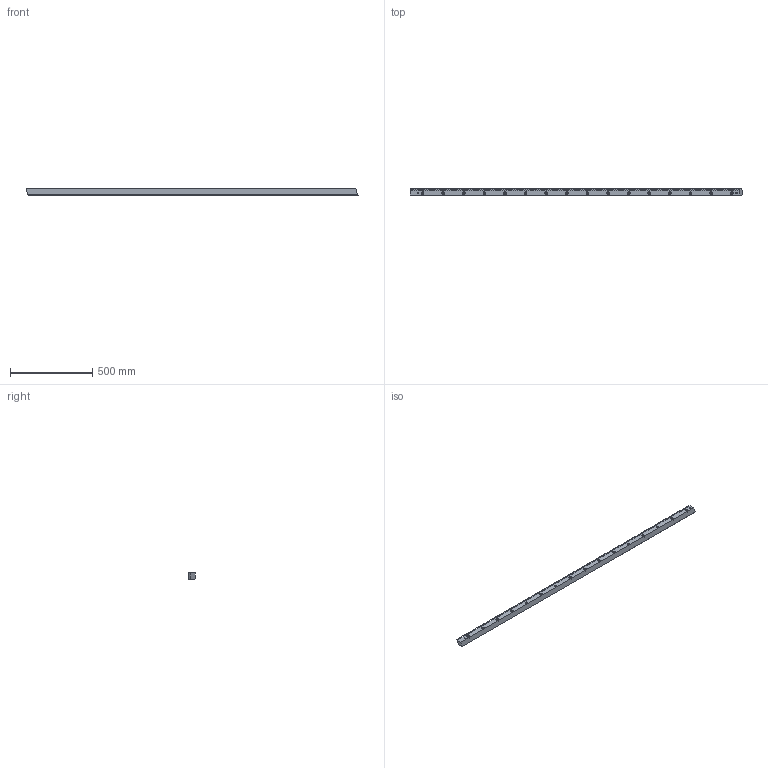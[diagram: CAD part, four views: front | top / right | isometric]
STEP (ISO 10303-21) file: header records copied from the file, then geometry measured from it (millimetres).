
FILE_DESCRIPTION (( 'STEP AP214' ), '1' );
FILE_NAME ('1HR16R040200H.STEP', '2021-12-06T11:17:31', ( '' ), ( '' ), 'SwSTEP 2.0', 'SolidWorks 2021', '' );
FILE_SCHEMA (( 'AUTOMOTIVE_DESIGN' ));
Length unit declared in the file: millimetre
Products named in the file (1): 1HR16R040200H
Bounding box: 2013.84 x 39 x 39 mm (x, y, z)
Volume: 2632623.5 mm3; surface area: 388978.1 mm2
Topology: 1 solids, 1 shells, 1659 faces, 4855 edges, 3214 vertices
Faces by surface type: plane 923, cylinder 668, cone 68
Entity records: 54035 total; most frequent: CARTESIAN_POINT 13329, ORIENTED_EDGE 9710, DIRECTION 7179, EDGE_CURVE 4855, VECTOR 3451, LINE 3451, VERTEX_POINT 3214, AXIS2_PLACEMENT_3D 1864
